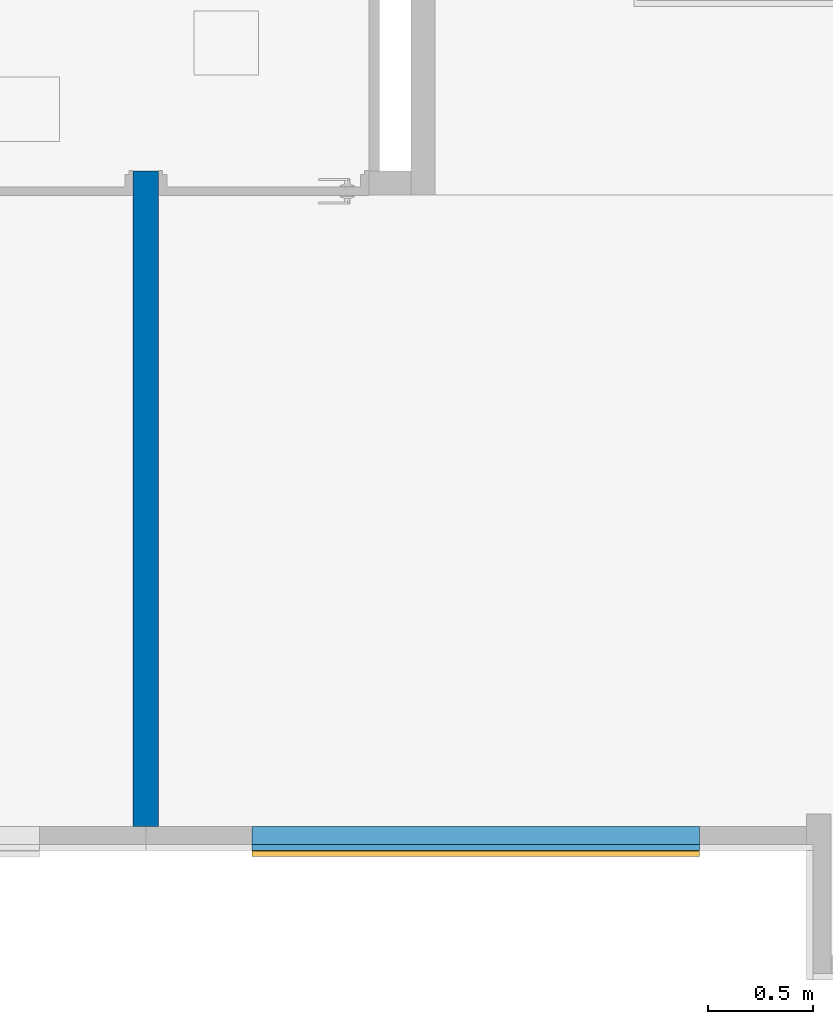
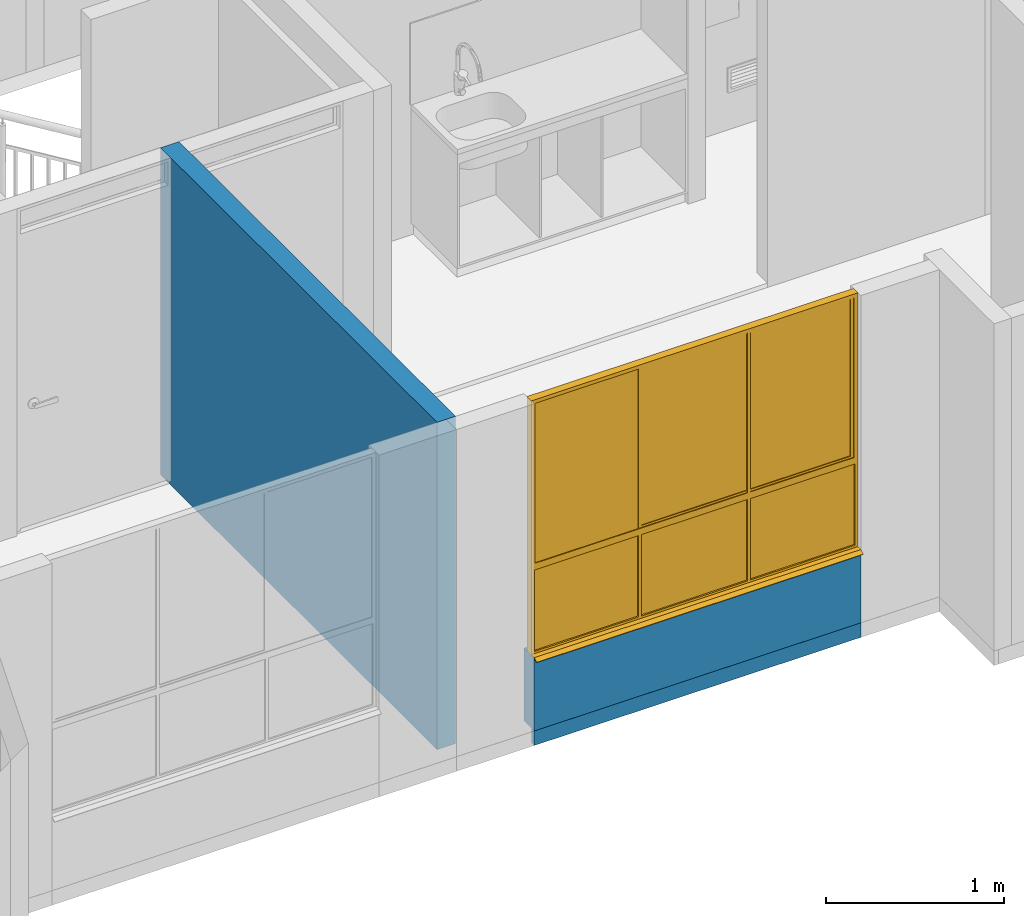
# One storey, part 9 of 47: 3 walls, 1 window, 1 opening.
"""IFC4 building model written with IfcOpenShell, lengths in metres."""

from ifc_helpers import new_model, entity, si_unit, converted_unit, derived_unit, direction, frame, origin, place, context, subcontext, project, spatial, indexed_curve, outline, extrude, polygons, source, transform, mapped, material, constituent, constituent_set, type_object, type_shapes, element, fill, save


model = new_model("IFC4")

# Units and contexts
model_context = context("Model", 3, precision=1e-05, world=origin(), true_north=direction((6.123031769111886e-17, 1.0)))
body_context = subcontext(model_context, "Body", "Model", "MODEL_VIEW")
ifc_project = project(units=[si_unit("LENGTHUNIT", "METRE"), si_unit("AREAUNIT", "SQUARE_METRE"), si_unit("VOLUMEUNIT", "CUBIC_METRE"), converted_unit("PLANEANGLEUNIT", "DEGREE", entity("IfcRatioMeasure", 0.017453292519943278), si_unit("PLANEANGLEUNIT", "RADIAN"), dimensions=[0, 0, 0, 0, 0, 0, 0]), si_unit("MASSUNIT", "GRAM", prefix="KILO"), derived_unit("MASSDENSITYUNIT", [(si_unit("MASSUNIT", "GRAM", prefix="KILO"), 1), (si_unit("LENGTHUNIT", "METRE"), -3)]), derived_unit("IONCONCENTRATIONUNIT", [(si_unit("MASSUNIT", "GRAM", prefix="KILO"), 1), (si_unit("LENGTHUNIT", "METRE"), -3)]), derived_unit("MOMENTOFINERTIAUNIT", [(si_unit("LENGTHUNIT", "METRE"), 4)]), si_unit("TIMEUNIT", "SECOND"), si_unit("FREQUENCYUNIT", "HERTZ"), si_unit("THERMODYNAMICTEMPERATUREUNIT", "DEGREE_CELSIUS"), derived_unit("THERMALTRANSMITTANCEUNIT", [(si_unit("MASSUNIT", "GRAM", prefix="KILO"), 1), (si_unit("THERMODYNAMICTEMPERATUREUNIT", "KELVIN"), -1), (si_unit("TIMEUNIT", "SECOND"), -3)]), derived_unit("THERMALCONDUCTANCEUNIT", [(si_unit("MASSUNIT", "GRAM", prefix="KILO"), 1), (si_unit("THERMODYNAMICTEMPERATUREUNIT", "KELVIN"), -1), (si_unit("TIMEUNIT", "SECOND"), -3), (si_unit("LENGTHUNIT", "METRE"), 1)]), derived_unit("VOLUMETRICFLOWRATEUNIT", [(si_unit("LENGTHUNIT", "METRE"), 3), (si_unit("TIMEUNIT", "SECOND"), -1)]), derived_unit("MASSFLOWRATEUNIT", [(si_unit("MASSUNIT", "GRAM", prefix="KILO"), 1), (si_unit("TIMEUNIT", "SECOND"), -1)]), derived_unit("ROTATIONALFREQUENCYUNIT", [(si_unit("TIMEUNIT", "SECOND"), -1)]), si_unit("ELECTRICCURRENTUNIT", "AMPERE"), si_unit("ELECTRICVOLTAGEUNIT", "VOLT"), si_unit("POWERUNIT", "WATT"), si_unit("FORCEUNIT", "NEWTON", prefix="KILO"), si_unit("ILLUMINANCEUNIT", "LUX"), si_unit("LUMINOUSFLUXUNIT", "LUMEN"), si_unit("LUMINOUSINTENSITYUNIT", "CANDELA"), derived_unit("USERDEFINED", [(si_unit("MASSUNIT", "GRAM", prefix="KILO"), -1), (si_unit("LENGTHUNIT", "METRE"), -2), (si_unit("TIMEUNIT", "SECOND"), 3), (si_unit("LUMINOUSFLUXUNIT", "LUMEN"), 1)]), derived_unit("USERDEFINED", [(si_unit("MASSUNIT", "GRAM", prefix="KILO"), 1), (si_unit("TIMEUNIT", "SECOND"), -3), (si_unit("LENGTHUNIT", "METRE"), 3), (si_unit("ELECTRICCURRENTUNIT", "AMPERE"), -2)]), derived_unit("SOUNDPOWERUNIT", [(si_unit("MASSUNIT", "GRAM", prefix="KILO"), 1), (si_unit("TIMEUNIT", "SECOND"), -3), (si_unit("LENGTHUNIT", "METRE"), 2)]), derived_unit("SOUNDPRESSUREUNIT", [(si_unit("MASSUNIT", "GRAM", prefix="KILO"), 1), (si_unit("LENGTHUNIT", "METRE"), -1), (si_unit("TIMEUNIT", "SECOND"), -2)]), derived_unit("LINEARVELOCITYUNIT", [(si_unit("LENGTHUNIT", "METRE"), 1), (si_unit("TIMEUNIT", "SECOND"), -1)]), si_unit("PRESSUREUNIT", "PASCAL"), derived_unit("USERDEFINED", [(si_unit("MASSUNIT", "GRAM", prefix="KILO"), 1), (si_unit("LENGTHUNIT", "METRE"), -2), (si_unit("TIMEUNIT", "SECOND"), -2)]), derived_unit("LINEARFORCEUNIT", [(si_unit("MASSUNIT", "GRAM", prefix="KILO"), 1), (si_unit("TIMEUNIT", "SECOND"), -2)]), derived_unit("PLANARFORCEUNIT", [(si_unit("MASSUNIT", "GRAM", prefix="KILO"), 1), (si_unit("LENGTHUNIT", "METRE"), -1), (si_unit("TIMEUNIT", "SECOND"), -2)]), derived_unit("SPECIFICHEATCAPACITYUNIT", [(si_unit("THERMODYNAMICTEMPERATUREUNIT", "KELVIN"), -1), (si_unit("LENGTHUNIT", "METRE"), 2), (si_unit("TIMEUNIT", "SECOND"), -2)]), derived_unit("HEATINGVALUEUNIT", [(si_unit("LENGTHUNIT", "METRE"), 2), (si_unit("TIMEUNIT", "SECOND"), -2)]), derived_unit("VAPORPERMEABILITYUNIT", [(si_unit("LENGTHUNIT", "METRE"), -1), (si_unit("TIMEUNIT", "SECOND"), 1)]), derived_unit("DYNAMICVISCOSITYUNIT", [(si_unit("MASSUNIT", "GRAM", prefix="KILO"), 1), (si_unit("TIMEUNIT", "SECOND"), -1), (si_unit("LENGTHUNIT", "METRE"), -1)]), derived_unit("THERMALEXPANSIONCOEFFICIENTUNIT", [(si_unit("THERMODYNAMICTEMPERATUREUNIT", "KELVIN"), -1)]), derived_unit("MODULUSOFELASTICITYUNIT", [(si_unit("MASSUNIT", "GRAM", prefix="KILO"), 1), (si_unit("LENGTHUNIT", "METRE"), -1), (si_unit("TIMEUNIT", "SECOND"), -2)]), derived_unit("ISOTHERMALMOISTURECAPACITYUNIT", [(si_unit("LENGTHUNIT", "METRE"), 3), (si_unit("MASSUNIT", "GRAM", prefix="KILO"), -1)]), derived_unit("MOISTUREDIFFUSIVITYUNIT", [(si_unit("TIMEUNIT", "SECOND"), -1), (si_unit("LENGTHUNIT", "METRE"), 2)])], contexts=[model_context])

# Site, building, storey
site_placement = place(None, origin())
site = spatial("IfcSite", under=ifc_project, at=site_placement, Name="Default", CompositionType="ELEMENT")
building_placement = place(site_placement, origin())
building = spatial("IfcBuilding", under=site, at=building_placement, CompositionType="ELEMENT")
storey_placement = place(building_placement, frame((0.0, 0.0, 11.750000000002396)))
storey = spatial("IfcBuildingStorey", under=building, at=storey_placement, Name="Nivel 6", CompositionType="ELEMENT", Elevation=11.750000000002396)

# Wall
ifc_material_1 = material(Name="Concreto (Aire)", Category="Materials")
wall_type_1 = type_object("IfcWallType", Name="Basic Wall:B2010 - 0.12m - Muro interior en concreto", PredefinedType="STANDARD")
wall_1_placement = place(storey_placement, frame((9.322500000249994, -9.024999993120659, 0.0), z_axis=(0.0, 0.0, 1.0), x_axis=(0.0, -1.0, 0.0)))
element("IfcWall", 1, at=wall_1_placement, inside=storey, type_object=wall_type_1, material=ifc_material_1, Name="Basic Wall:B2010 - 0.12m - Muro interior en concreto", ObjectType="Basic Wall:B2010 - 0.12m - Muro interior en concreto", PredefinedType="NOTDEFINED", context=body_context, shape_type="SweptSolid", body=[
    extrude(outline(indexed_curve([(3.1150000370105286, 0.06000000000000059), (-1.0719303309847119e-16, 0.060000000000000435), (1.0719303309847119e-16, -0.060000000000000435), (3.1150000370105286, -0.06000000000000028), (3.1150000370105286, 0.06000000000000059)], self_intersect=False)), origin(), (0.0, 0.0, 1.0), 2.2500000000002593),
])

# Wall, opening, window
ifc_material_2 = material(Name="Ladrillo claro (Aire)", Category="Materials")
wall_type_2 = type_object("IfcWallType", Name="Basic Wall:B2010 - 0.115m - Muro exterior en mampostería - Ladrillo", PredefinedType="STANDARD")
wall_2_placement = place(storey_placement, frame((11.952500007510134, -12.197500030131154, 0.0), z_axis=(0.0, 0.0, 1.0), x_axis=(-1.0, 0.0, 0.0)))
wall_2 = element("IfcWall", 2, at=wall_2_placement, inside=storey, type_object=wall_type_2, material=ifc_material_2, Name="Basic Wall:B2010 - 0.115m - Muro exterior en mampostería - Ladrillo", ObjectType="Basic Wall:B2010 - 0.115m - Muro exterior en mampostería - Ladrillo", PredefinedType="NOTDEFINED", context=body_context, shape_type="Tessellation", body=[
    polygons([(1.6266871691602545e-15, -0.057499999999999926, -2.1657342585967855e-15), (2.1249999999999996, -0.057499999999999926, -2.1657342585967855e-15), (2.1249999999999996, -0.057499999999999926, 0.5000000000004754), (1.6266871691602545e-15, -0.057499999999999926, 0.5000000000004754), (2.1249999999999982, 0.057499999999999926, -2.1657342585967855e-15), (6.252360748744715e-16, 0.057499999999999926, -2.1657342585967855e-15), (6.252360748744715e-16, 0.057499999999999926, 0.5000000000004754), (2.1249999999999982, 0.057499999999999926, 0.5000000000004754)], [[[1, 2, 3, 4]], [[5, 6, 7, 8]], [[2, 1, 6, 5]], [[2, 5, 8, 3]], [[6, 1, 4, 7]], [[4, 3, 8, 7]]], closed=True),
])
opening_placement = place(wall_2_placement, frame((0.0, -0.057499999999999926, 0.5000000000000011)))
opening = element("IfcOpeningElement", 3, at=opening_placement, cuts=wall_2, Name="B2020 - 6c Ventana corrediza - Aluminio + Vidrio:B2020 -2.13m x 1.750m - Ventana corrediza 2C - Aluminio + Vidrio:1", PredefinedType="OPENING", context=body_context, shape_type="SweptSolid", body=[
    extrude(outline(indexed_curve([(0.0, 2.125), (0.0, 0.0), (1.7500000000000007, 0.0), (1.7499999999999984, 2.125), (0.0, 2.125)], self_intersect=False)), frame((0.0, 0.0, 0.0), z_axis=(0.0, 1.0, 0.0), x_axis=(0.0, 0.0, 1.0)), (0.0, 0.0, 1.0), 0.115),
])
ifc_material_3 = material(Name="Aluminio", Category="Materials")
ifc_constituent_1 = constituent(ifc_material_3, Name="Aluminio", Category="Materials")
ifc_material_4 = material(Name="Vidrio", Category="Materials")
ifc_constituent_2 = constituent(ifc_material_4, Name="Vidrio", Category="Materials")
ifc_material_5 = material(Name="Alfajía en aluminio", Category="Materials")
ifc_constituent_3 = constituent(ifc_material_5, Name="Alfajía en aluminio", Category="Materials")
ifc_constituent_set_1 = constituent_set(constituents=[ifc_constituent_1, ifc_constituent_2, ifc_constituent_3])
ifc_constituent_4 = constituent(ifc_material_3, Name="Aluminio", Category="Materials")
ifc_constituent_5 = constituent(ifc_material_4, Name="Vidrio", Category="Materials")
ifc_constituent_6 = constituent(ifc_material_5, Name="Alfajía en aluminio", Category="Materials")
ifc_constituent_set_2 = constituent_set(constituents=[ifc_constituent_4, ifc_constituent_5, ifc_constituent_6])
window_type = type_object("IfcWindowType", Name="B2020 - 6c Ventana corrediza - Aluminio + Vidrio:B2020 -2.13m x 1.750m - Ventana corrediza 2C - Aluminio + Vidrio", PartitioningType="NOTDEFINED", PredefinedType="WINDOW", material=ifc_constituent_set_2)
shared_shape = source(origin(), body_context, "Body", "Tessellation", [
    polygons([(1.3916666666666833, 0.03749999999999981, 1.7249999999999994), (1.3916666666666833, 0.03749999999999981, 0.6249999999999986), (1.391666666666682, 0.032499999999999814, 0.6249999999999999), (1.3916666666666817, 0.032499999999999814, 1.7249999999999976), (-0.6833333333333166, 0.03249999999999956, 0.6249999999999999), (-0.6833333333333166, 0.032499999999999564, 1.7249999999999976), (-0.7083333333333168, 0.03249999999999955, 0.5999999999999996), (1.4166666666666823, 0.032499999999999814, 0.5999999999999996), (1.4166666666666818, 0.032499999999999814, 1.749999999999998), (-0.7083333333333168, 0.03249999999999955, 1.749999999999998), (-0.6833333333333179, 0.03749999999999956, 0.6249999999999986), (-0.6833333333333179, 0.03749999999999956, 1.7249999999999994), (-0.6883333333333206, 0.03749999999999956, 0.6199999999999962), (-0.6883333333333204, 0.03749999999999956, 1.7300000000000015), (1.3966666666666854, 0.03749999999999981, 1.7300000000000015), (1.3966666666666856, 0.03749999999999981, 0.6199999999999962), (1.3966666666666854, 0.05499999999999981, 1.7300000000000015), (1.3966666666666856, 0.05499999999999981, 0.6199999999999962), (-0.6883333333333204, 0.05499999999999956, 0.6199999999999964), (-0.6883333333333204, 0.05499999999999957, 1.7300000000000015), (-0.6833333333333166, 0.05499999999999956, 0.6249999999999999), (-0.6833333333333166, 0.05499999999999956, 1.7249999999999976), (1.3916666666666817, 0.05499999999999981, 1.7249999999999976), (1.391666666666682, 0.05499999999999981, 0.6249999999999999), (1.3916666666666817, 0.05999999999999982, 1.7249999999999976), (1.391666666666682, 0.05999999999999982, 0.6249999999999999), (-0.6833333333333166, 0.059999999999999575, 0.6249999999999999), (-0.6833333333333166, 0.059999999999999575, 1.7249999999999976), (-0.7033333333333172, 0.05999999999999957, 0.6049999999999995), (-0.7033333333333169, 0.05999999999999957, 1.744999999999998), (1.411666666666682, 0.05999999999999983, 1.744999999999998), (1.4116666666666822, 0.05999999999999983, 0.6049999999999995), (1.411666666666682, 0.07749999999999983, 1.744999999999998), (1.4116666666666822, 0.07749999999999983, 0.6049999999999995), (-0.7033333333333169, 0.07749999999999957, 0.6049999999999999), (-0.7033333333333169, 0.07749999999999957, 1.744999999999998), (-0.6833333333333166, 0.07749999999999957, 0.6249999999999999), (-0.6833333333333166, 0.07749999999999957, 1.7249999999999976), (1.3916666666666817, 0.07749999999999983, 1.7249999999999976), (1.391666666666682, 0.07749999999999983, 0.6249999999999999), (1.3916666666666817, 0.08249999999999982, 1.7249999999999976), (1.391666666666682, 0.08249999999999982, 0.6249999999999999), (-0.6833333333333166, 0.08249999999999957, 0.6249999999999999), (-0.6833333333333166, 0.08249999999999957, 1.7249999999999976), (-0.7083333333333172, 0.08249999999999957, 0.5999999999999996), (-0.7083333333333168, 0.08249999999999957, 1.749999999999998), (1.4166666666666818, 0.08249999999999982, 1.749999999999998), (1.4166666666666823, 0.08249999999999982, 0.5999999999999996)], [[[1, 2, 3, 4]], [[7, 8, 9, 10], [5, 6, 4, 3]], [[2, 11, 5, 3]], [[13, 14, 15, 16], [11, 2, 1, 12]], [[17, 18, 16, 15]], [[18, 19, 13, 16]], [[19, 18, 17, 20], [21, 22, 23, 24]], [[25, 26, 24, 23]], [[26, 27, 21, 24]], [[29, 30, 31, 32], [27, 26, 25, 28]], [[33, 34, 32, 31]], [[34, 35, 29, 32]], [[35, 34, 33, 36], [37, 38, 39, 40]], [[41, 42, 40, 39]], [[42, 43, 37, 40]], [[45, 46, 47, 48], [43, 42, 41, 44]], [[9, 8, 48, 47]], [[8, 7, 45, 48]], [[11, 12, 6, 5]], [[19, 20, 14, 13]], [[27, 28, 22, 21]], [[35, 36, 30, 29]], [[43, 44, 38, 37]], [[7, 10, 46, 45]], [[12, 1, 4, 6]], [[20, 17, 15, 14]], [[28, 25, 23, 22]], [[36, 33, 31, 30]], [[44, 41, 39, 38]], [[10, 9, 47, 46]]], closed=True),
    polygons([(-0.009999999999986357, 0.08249999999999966, 0.6249999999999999), (0.010000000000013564, 0.08249999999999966, 0.6249999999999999), (0.010000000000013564, 0.05999999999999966, 0.6249999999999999), (-0.009999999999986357, 0.05999999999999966, 0.6249999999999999), (-0.009999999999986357, 0.08249999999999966, 1.7249999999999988), (-0.009999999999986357, 0.05999999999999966, 1.7249999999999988), (0.010000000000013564, 0.05999999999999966, 1.7249999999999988), (0.010000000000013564, 0.08249999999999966, 1.7249999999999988)], [[[1, 2, 3, 4]], [[5, 1, 4, 6]], [[6, 4, 3, 7]], [[7, 3, 2, 8]], [[8, 2, 1, 5]], [[5, 6, 7, 8]]], closed=True),
    polygons([(0.7108333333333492, 0.06674999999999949, 1.7299999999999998), (-0.6833333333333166, 0.06674999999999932, 1.7299999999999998), (-0.6833333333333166, 0.06674999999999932, 0.6174999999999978), (0.7108333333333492, 0.06674999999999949, 0.6174999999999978), (0.7108333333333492, 0.0707499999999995, 0.6174999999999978), (0.7108333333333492, 0.0707499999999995, 1.7299999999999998), (-0.6833333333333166, 0.07074999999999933, 0.6174999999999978), (-0.6833333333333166, 0.07074999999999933, 1.7299999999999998)], [[[1, 2, 3, 4]], [[4, 5, 6, 1]], [[3, 7, 5, 4]], [[2, 8, 7, 3]], [[6, 5, 7, 8]], [[1, 6, 8, 2]]], closed=True),
    polygons([(0.7108333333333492, 0.07074999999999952, 0.6225000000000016), (-0.6783333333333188, 0.07074999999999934, 0.6225000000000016), (-0.6783333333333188, 0.06674999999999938, 0.6225000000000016), (0.7108333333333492, 0.06674999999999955, 0.6225000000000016), (-0.6783333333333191, 0.07074999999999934, 1.730000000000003), (-0.6783333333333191, 0.06674999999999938, 1.730000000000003), (0.7108333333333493, 0.06674999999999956, 1.730000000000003), (-0.6633333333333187, 0.06674999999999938, 1.7150000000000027), (-0.6633333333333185, 0.06674999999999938, 0.637500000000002), (0.695833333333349, 0.06674999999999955, 0.637500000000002), (0.695833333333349, 0.06674999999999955, 1.7150000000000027), (0.7108333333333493, 0.07074999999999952, 1.730000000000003), (-0.6633333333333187, 0.07074999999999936, 0.637500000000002), (-0.6633333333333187, 0.07074999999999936, 1.7150000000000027), (0.695833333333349, 0.07074999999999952, 1.7150000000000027), (0.695833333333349, 0.07074999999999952, 0.6375000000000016), (0.695833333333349, 0.07549999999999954, 0.637500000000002), (-0.6633333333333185, 0.07549999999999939, 0.6375000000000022), (-0.6633333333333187, 0.07549999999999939, 1.7150000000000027), (0.695833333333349, 0.07549999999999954, 1.7150000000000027), (-0.6833333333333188, 0.07549999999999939, 0.6175000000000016), (-0.683333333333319, 0.07549999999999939, 1.735000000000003), (0.7158333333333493, 0.07549999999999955, 1.735000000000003), (0.7158333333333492, 0.07549999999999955, 0.6175000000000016), (0.7158333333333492, 0.06199999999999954, 0.6175000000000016), (-0.6833333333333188, 0.061999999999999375, 0.6175000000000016), (-0.683333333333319, 0.061999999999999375, 1.735000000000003), (0.7158333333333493, 0.06199999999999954, 1.735000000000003), (-0.6633333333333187, 0.06199999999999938, 0.637500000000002), (-0.6633333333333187, 0.06199999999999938, 1.7150000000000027), (0.695833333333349, 0.06199999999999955, 1.7150000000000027), (0.695833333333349, 0.06199999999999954, 0.6375000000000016)], [[[1, 2, 3, 4]], [[2, 5, 6, 3]], [[3, 6, 7, 4], [8, 9, 10, 11]], [[5, 2, 1, 12], [13, 14, 15, 16]], [[17, 18, 13, 16]], [[18, 19, 14, 13]], [[21, 22, 23, 24], [19, 18, 17, 20]], [[25, 26, 21, 24]], [[26, 27, 22, 21]], [[27, 26, 25, 28], [29, 30, 31, 32]], [[10, 9, 29, 32]], [[9, 8, 30, 29]], [[12, 1, 4, 7]], [[20, 17, 16, 15]], [[28, 25, 24, 23]], [[11, 10, 32, 31]], [[5, 12, 7, 6]], [[19, 20, 15, 14]], [[27, 28, 23, 22]], [[8, 11, 31, 30]]], closed=True),
    polygons([(1.3916666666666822, 0.04424999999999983, 1.7299999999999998), (0.7033333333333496, 0.04424999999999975, 1.7299999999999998), (0.7033333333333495, 0.04424999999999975, 0.6174999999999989), (1.391666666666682, 0.04424999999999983, 0.6174999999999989), (1.391666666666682, 0.04824999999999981, 0.6174999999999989), (1.3916666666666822, 0.04824999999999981, 1.7299999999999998), (0.7033333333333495, 0.048249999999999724, 0.6174999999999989), (0.7033333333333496, 0.048249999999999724, 1.7299999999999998)], [[[1, 2, 3, 4]], [[4, 5, 6, 1]], [[3, 7, 5, 4]], [[2, 8, 7, 3]], [[6, 5, 7, 8]], [[1, 6, 8, 2]]], closed=True),
    polygons([(1.391666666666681, 0.04824999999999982, 0.6224999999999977), (0.7033333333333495, 0.04824999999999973, 0.6224999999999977), (0.7033333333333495, 0.044249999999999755, 0.6224999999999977), (1.391666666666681, 0.04424999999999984, 0.6224999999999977), (0.7033333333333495, 0.04824999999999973, 1.729999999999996), (0.7033333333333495, 0.044249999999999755, 1.729999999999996), (1.391666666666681, 0.04424999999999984, 1.729999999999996), (0.7183333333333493, 0.044249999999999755, 1.714999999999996), (0.7183333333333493, 0.044249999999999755, 0.6374999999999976), (1.3766666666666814, 0.04424999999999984, 0.6374999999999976), (1.3766666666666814, 0.04424999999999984, 1.714999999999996), (1.391666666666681, 0.04824999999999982, 1.729999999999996), (0.7183333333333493, 0.04824999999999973, 0.6374999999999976), (0.7183333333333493, 0.04824999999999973, 1.714999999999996), (1.3766666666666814, 0.04824999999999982, 1.714999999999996), (1.3766666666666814, 0.04824999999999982, 0.6374999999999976), (1.3766666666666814, 0.052999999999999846, 0.6374999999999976), (0.7183333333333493, 0.05299999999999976, 0.6374999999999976), (0.7183333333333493, 0.05299999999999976, 1.714999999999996), (1.3766666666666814, 0.052999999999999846, 1.714999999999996), (0.6983333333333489, 0.052999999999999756, 0.6174999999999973), (0.6983333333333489, 0.05299999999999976, 1.7349999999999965), (1.3966666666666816, 0.052999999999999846, 1.7349999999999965), (1.3966666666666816, 0.052999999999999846, 0.6174999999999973), (1.3966666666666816, 0.03949999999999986, 0.6174999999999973), (0.6983333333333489, 0.03949999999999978, 0.6174999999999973), (0.6983333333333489, 0.03949999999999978, 1.7349999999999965), (1.3966666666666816, 0.03949999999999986, 1.7349999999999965), (0.7183333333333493, 0.039499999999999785, 0.6374999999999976), (0.7183333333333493, 0.03949999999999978, 1.714999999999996), (1.3766666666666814, 0.039499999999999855, 1.714999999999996), (1.3766666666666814, 0.039499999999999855, 0.6374999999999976)], [[[1, 2, 3, 4]], [[2, 5, 6, 3]], [[3, 6, 7, 4], [8, 9, 10, 11]], [[5, 2, 1, 12], [13, 14, 15, 16]], [[17, 18, 13, 16]], [[18, 19, 14, 13]], [[21, 22, 23, 24], [19, 18, 17, 20]], [[25, 26, 21, 24]], [[26, 27, 22, 21]], [[27, 26, 25, 28], [29, 30, 31, 32]], [[10, 9, 29, 32]], [[9, 8, 30, 29]], [[12, 1, 4, 7]], [[20, 17, 16, 15]], [[28, 25, 24, 23]], [[11, 10, 32, 31]], [[5, 12, 7, 6]], [[19, 20, 15, 14]], [[27, 28, 23, 22]], [[8, 11, 31, 30]]], closed=True),
    polygons([(-0.6883333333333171, 0.04424999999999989, 1.7299999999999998), (-0.6883333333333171, 0.04424999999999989, 0.6174999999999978), (1.3916666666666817, 0.04424999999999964, 0.6174999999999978), (1.3916666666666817, 0.04424999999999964, 1.7299999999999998), (1.3916666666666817, 0.04824999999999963, 0.6174999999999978), (1.3916666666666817, 0.04824999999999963, 1.7299999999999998), (-0.6883333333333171, 0.04824999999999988, 0.6174999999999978), (-0.6883333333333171, 0.04824999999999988, 1.7299999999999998)], [[[1, 2, 3, 4]], [[3, 5, 6, 4]], [[2, 7, 5, 3]], [[1, 8, 7, 2]], [[8, 6, 5, 7]], [[4, 6, 8, 1]]], closed=True),
    polygons([(1.3966666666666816, 0.06674999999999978, 1.7299999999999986), (-0.6883333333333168, 0.06674999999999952, 1.7299999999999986), (-0.6883333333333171, 0.06674999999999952, 0.6174999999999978), (1.3966666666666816, 0.06674999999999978, 0.6174999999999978), (1.3966666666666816, 0.07074999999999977, 0.6174999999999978), (1.3966666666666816, 0.07074999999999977, 1.7299999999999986), (-0.6883333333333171, 0.07074999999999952, 0.6174999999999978), (-0.6883333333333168, 0.07074999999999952, 1.7299999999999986)], [[[1, 2, 3, 4]], [[4, 5, 6, 1]], [[3, 7, 5, 4]], [[2, 8, 7, 3]], [[6, 5, 7, 8]], [[1, 6, 8, 2]]], closed=True),
    polygons([(1.3966666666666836, 0.06813901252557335, 0.5800000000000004), (-0.6883333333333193, 0.06813901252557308, 0.5800000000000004), (-0.6883333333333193, 0.06813901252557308, 0.019999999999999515), (1.3966666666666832, 0.06813901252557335, 0.019999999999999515), (1.3966666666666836, 0.07213901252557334, 0.5800000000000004), (1.3966666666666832, 0.07213901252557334, 0.019999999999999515), (-0.6883333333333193, 0.07213901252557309, 0.019999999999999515), (-0.6883333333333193, 0.07213901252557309, 0.5800000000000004)], [[[1, 2, 3, 4]], [[5, 6, 7, 8]], [[4, 6, 5, 1]], [[3, 7, 6, 4]], [[2, 8, 7, 3]], [[1, 5, 8, 2]]], closed=True),
    polygons([(-0.009999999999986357, 0.08250000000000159, 0.5799999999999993), (-0.009999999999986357, 0.03250000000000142, 0.5799999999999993), (0.010000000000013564, 0.03250000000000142, 0.5799999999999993), (0.010000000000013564, 0.08250000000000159, 0.5799999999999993), (-0.009999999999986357, 0.08250000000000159, 0.019999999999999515), (0.010000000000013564, 0.08250000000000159, 0.019999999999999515), (0.010000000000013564, 0.03250000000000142, 0.019999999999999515), (-0.009999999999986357, 0.03250000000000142, 0.019999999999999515)], [[[1, 2, 3, 4]], [[5, 6, 7, 8]], [[4, 6, 5, 1]], [[3, 7, 6, 4]], [[2, 8, 7, 3]], [[1, 5, 8, 2]]], closed=True),
    polygons([(1.4166666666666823, 0.08249999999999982, 2.707167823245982e-16), (-0.7083333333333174, 0.08249999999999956, 4.060751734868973e-16), (-0.7083333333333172, 0.08249999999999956, 0.5999999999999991), (1.4166666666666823, 0.08249999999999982, 0.5999999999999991), (0.6983333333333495, 0.08250000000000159, 0.5799999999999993), (-0.6883333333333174, 0.0825000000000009, 0.5799999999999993), (-0.6883333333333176, 0.0825000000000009, 0.020000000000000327), (0.6983333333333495, 0.08250000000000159, 0.01999999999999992), (0.7183333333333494, 0.08250000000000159, 0.01999999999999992), (1.3966666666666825, 0.08250000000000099, 0.020000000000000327), (1.3966666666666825, 0.08250000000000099, 0.5799999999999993), (0.7183333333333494, 0.08250000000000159, 0.5799999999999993), (0.7183333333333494, 0.03250000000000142, 0.5799999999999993), (0.7183333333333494, 0.03250000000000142, 0.01999999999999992), (1.4166666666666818, 0.03250000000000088, 0.5999999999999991), (-0.7083333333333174, 0.0325000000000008, 0.5999999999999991), (-0.7083333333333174, 0.0325000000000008, 4.060751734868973e-16), (1.4166666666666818, 0.03250000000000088, 4.060751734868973e-16), (1.3966666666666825, 0.032499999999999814, 0.5799999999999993), (1.3966666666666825, 0.032499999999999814, 0.020000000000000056), (0.6983333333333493, 0.03250000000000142, 0.01999999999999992), (-0.6883333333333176, 0.03249999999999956, 0.020000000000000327), (-0.6883333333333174, 0.03249999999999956, 0.5799999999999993), (0.6983333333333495, 0.03250000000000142, 0.5799999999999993)], [[[1, 2, 3, 4], [5, 6, 7, 8], [9, 10, 11, 12]], [[12, 13, 14, 9]], [[15, 16, 17, 18], [13, 19, 20, 14], [21, 22, 23, 24]], [[8, 21, 24, 5]], [[11, 10, 20, 19]], [[15, 18, 1, 4]], [[10, 9, 14, 20]], [[18, 17, 2, 1]], [[7, 6, 23, 22]], [[17, 16, 3, 2]], [[6, 5, 24, 23]], [[4, 3, 16, 15]], [[19, 13, 12, 11]], [[22, 21, 8, 7]]], closed=True),
    polygons([(0.6983333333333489, 0.07213901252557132, 0.5849999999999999), (-0.6883333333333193, 0.07213901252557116, 0.5849999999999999), (-0.6883333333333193, 0.06813901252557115, 0.5849999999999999), (0.6983333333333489, 0.06813901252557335, 0.5849999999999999), (0.6983333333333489, 0.07213901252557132, 0.019999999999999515), (0.6983333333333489, 0.06813901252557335, 0.019999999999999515), (-0.6883333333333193, 0.06813901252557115, 0.019999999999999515), (-0.6883333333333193, 0.07213901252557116, 0.019999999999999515)], [[[1, 2, 3, 4]], [[5, 6, 7, 8]], [[1, 5, 8, 2]], [[2, 8, 7, 3]], [[3, 7, 6, 4]], [[4, 6, 5, 1]]], closed=True),
    polygons([(1.4166666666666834, 0.11499999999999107, -4.060751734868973e-16), (1.416666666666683, 0.1409807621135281, -0.015000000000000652), (1.416666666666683, 0.14348076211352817, -0.010669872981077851), (1.4166666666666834, 0.11633974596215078, 0.0049999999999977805), (1.4166666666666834, 0.08249999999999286, 0.0049999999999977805), (1.4166666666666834, 0.08249999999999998, -4.060751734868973e-16), (-0.7083333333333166, 0.11499999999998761, -4.060751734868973e-16), (-0.7083333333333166, 0.08249999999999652, -4.060751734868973e-16), (-0.7083333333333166, 0.0824999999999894, 0.0049999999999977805), (-0.7083333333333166, 0.11633974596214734, 0.0049999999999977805), (-0.7083333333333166, 0.1434807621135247, -0.010669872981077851), (-0.7083333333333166, 0.14098076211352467, -0.015000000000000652)], [[[1, 2, 3, 4, 5, 6]], [[7, 8, 9, 10, 11, 12]], [[6, 8, 7, 1]], [[5, 9, 8, 6]], [[4, 10, 9, 5]], [[3, 11, 10, 4]], [[2, 12, 11, 3]], [[1, 7, 12, 2]]], closed=True),
    polygons([(0.7183333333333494, 0.07213901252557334, 0.5849999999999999), (0.7183333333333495, 0.06813901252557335, 0.5849999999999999), (1.3966666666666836, 0.06813901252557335, 0.5849999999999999), (1.3966666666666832, 0.07213901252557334, 0.5849999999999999), (0.7183333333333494, 0.07213901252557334, 0.019999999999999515), (1.3966666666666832, 0.07213901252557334, 0.019999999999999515), (1.3966666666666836, 0.06813901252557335, 0.019999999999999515), (0.7183333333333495, 0.06813901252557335, 0.019999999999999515)], [[[1, 2, 3, 4]], [[5, 6, 7, 8]], [[4, 6, 5, 1]], [[3, 7, 6, 4]], [[2, 8, 7, 3]], [[1, 5, 8, 2]]], closed=True),
])
type_shapes(window_type, [shared_shape])
window_placement = place(opening_placement, frame((0.7083333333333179, 0.0, 0.0)))
window = element("IfcWindow", 4, at=window_placement, inside=storey, type_object=window_type, material=ifc_constituent_set_1, Name="B2020 - 6c Ventana corrediza - Aluminio + Vidrio:B2020 -2.13m x 1.750m - Ventana corrediza 2C - Aluminio + Vidrio", ObjectType="B2020 - 6c Ventana corrediza - Aluminio + Vidrio:B2020 -2.13m x 1.750m - Ventana corrediza 2C - Aluminio + Vidrio", OverallHeight=1.7500000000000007, OverallWidth=2.125, PartitioningType="NOTDEFINED", PredefinedType="WINDOW", context=body_context, shape_type="MappedRepresentation", body=[
    mapped(shared_shape, transform((0.0, 0.0, 0.0), scale=1.0)),
])
fill(opening, window)

# Wall
ifc_material_6 = material(Name="LADRILLO CLARO", Category="Materials")
wall_type_3 = type_object("IfcWallType", Name="Basic Wall:B2010 - 0.03m - ME enchape  no estructural - Ladrillo", PredefinedType="STANDARD")
wall_3_placement = place(storey_placement, frame((9.827500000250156, -12.240000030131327, -0.10000000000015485)))
element("IfcWall", 5, at=wall_3_placement, inside=storey, type_object=wall_type_3, material=ifc_material_6, Name="Basic Wall:B2010 - 0.03m - ME enchape  no estructural - Ladrillo", ObjectType="Basic Wall:B2010 - 0.03m - ME enchape  no estructural - Ladrillo", PredefinedType="NOTDEFINED", context=body_context, shape_type="SweptSolid", body=[
    extrude(outline(indexed_curve([(2.125000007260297, 0.015000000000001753), (-5.1729321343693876e-17, 0.015000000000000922), (5.1729321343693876e-17, -0.015000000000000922), (2.125000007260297, -0.01500000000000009), (2.125000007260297, 0.015000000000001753)], self_intersect=False)), origin(), (0.0, 0.0, 1.0), 0.09999999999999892),
])

save(model, "model.ifc")
